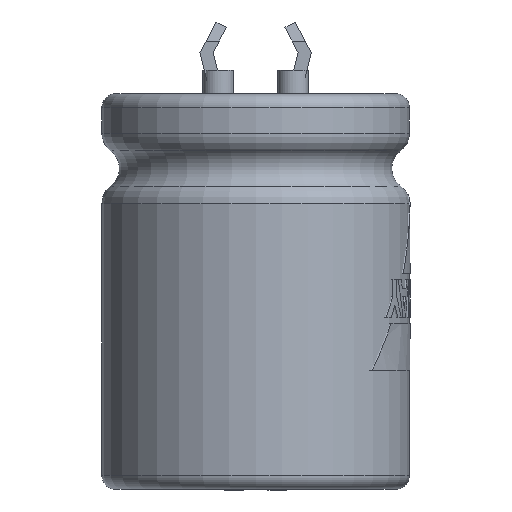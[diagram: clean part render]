
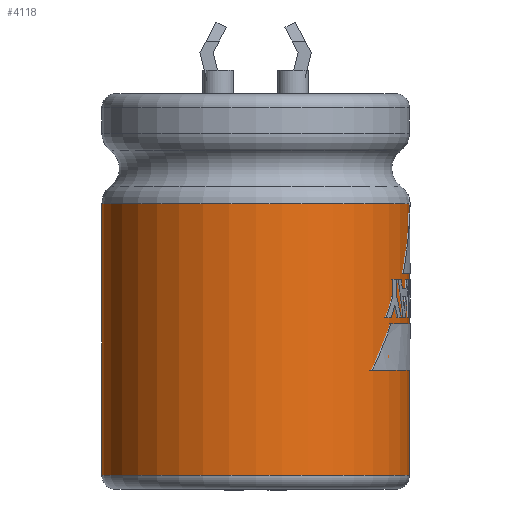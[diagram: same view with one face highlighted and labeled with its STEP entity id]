
A CAD part, left-side view. The second image highlights one B-rep face of the part: STEP entity #4118.
In plain terms, the highlighted cylindrical face has radius 10.5 mm (diameter 21 mm), a full revolution.
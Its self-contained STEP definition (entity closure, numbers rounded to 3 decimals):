
#4050 = TOROIDAL_SURFACE('',#4051,9.,1.5);
#4051 = AXIS2_PLACEMENT_3D('',#4052,#4053,#4054);
#4052 = CARTESIAN_POINT('',(0.,0.,-6.55));
#4053 = DIRECTION('',(0.,0.,1.));
#4054 = DIRECTION('',(1.,0.,0.));
#4066 = EDGE_CURVE('',#4067,#4067,#4069,.T.);
#4067 = VERTEX_POINT('',#4068);
#4068 = CARTESIAN_POINT('',(10.5,0.,
    -6.55));
#4069 = SURFACE_CURVE('',#4070,(#4075,#4082),.PCURVE_S1.);
#4070 = CIRCLE('',#4071,10.5);
#4071 = AXIS2_PLACEMENT_3D('',#4072,#4073,#4074);
#4072 = CARTESIAN_POINT('',(0.,0.,-6.55));
#4073 = DIRECTION('',(0.,0.,1.));
#4074 = DIRECTION('',(1.,0.,0.));
#4075 = PCURVE('',#4050,#4076);
#4076 = DEFINITIONAL_REPRESENTATION('',(#4077),#4081);
#4077 = LINE('',#4078,#4079);
#4078 = CARTESIAN_POINT('',(0.,0.));
#4079 = VECTOR('',#4080,1.);
#4080 = DIRECTION('',(1.,0.));
#4081 = ( GEOMETRIC_REPRESENTATION_CONTEXT(2) 
PARAMETRIC_REPRESENTATION_CONTEXT() REPRESENTATION_CONTEXT('2D SPACE',''
  ) );
#4082 = PCURVE('',#4083,#4088);
#4083 = CYLINDRICAL_SURFACE('',#4084,10.5);
#4084 = AXIS2_PLACEMENT_3D('',#4085,#4086,#4087);
#4085 = CARTESIAN_POINT('',(0.,0.,-25.1));
#4086 = DIRECTION('',(0.,0.,1.));
#4087 = DIRECTION('',(1.,0.,0.));
#4088 = DEFINITIONAL_REPRESENTATION('',(#4089),#4093);
#4089 = LINE('',#4090,#4091);
#4090 = CARTESIAN_POINT('',(0.,18.55));
#4091 = VECTOR('',#4092,1.);
#4092 = DIRECTION('',(1.,0.));
#4093 = ( GEOMETRIC_REPRESENTATION_CONTEXT(2) 
PARAMETRIC_REPRESENTATION_CONTEXT() REPRESENTATION_CONTEXT('2D SPACE',''
  ) );
#4118 = ADVANCED_FACE('',(#4119),#4083,.T.);
#4119 = FACE_BOUND('',#4120,.T.);
#4120 = EDGE_LOOP('',(#4121,#4150,#4171,#4172));
#4121 = ORIENTED_EDGE('',*,*,#4122,.T.);
#4122 = EDGE_CURVE('',#4123,#4123,#4125,.T.);
#4123 = VERTEX_POINT('',#4124);
#4124 = CARTESIAN_POINT('',(10.5,0.,-25.1));
#4125 = SURFACE_CURVE('',#4126,(#4131,#4138),.PCURVE_S1.);
#4126 = CIRCLE('',#4127,10.5);
#4127 = AXIS2_PLACEMENT_3D('',#4128,#4129,#4130);
#4128 = CARTESIAN_POINT('',(0.,0.,-25.1));
#4129 = DIRECTION('',(0.,0.,1.));
#4130 = DIRECTION('',(1.,0.,0.));
#4131 = PCURVE('',#4083,#4132);
#4132 = DEFINITIONAL_REPRESENTATION('',(#4133),#4137);
#4133 = LINE('',#4134,#4135);
#4134 = CARTESIAN_POINT('',(0.,0.));
#4135 = VECTOR('',#4136,1.);
#4136 = DIRECTION('',(1.,0.));
#4137 = ( GEOMETRIC_REPRESENTATION_CONTEXT(2) 
PARAMETRIC_REPRESENTATION_CONTEXT() REPRESENTATION_CONTEXT('2D SPACE',''
  ) );
#4138 = PCURVE('',#4139,#4144);
#4139 = TOROIDAL_SURFACE('',#4140,9.55,0.95);
#4140 = AXIS2_PLACEMENT_3D('',#4141,#4142,#4143);
#4141 = CARTESIAN_POINT('',(0.,0.,-25.1));
#4142 = DIRECTION('',(0.,0.,1.));
#4143 = DIRECTION('',(1.,0.,0.));
#4144 = DEFINITIONAL_REPRESENTATION('',(#4145),#4149);
#4145 = LINE('',#4146,#4147);
#4146 = CARTESIAN_POINT('',(0.,6.283));
#4147 = VECTOR('',#4148,1.);
#4148 = DIRECTION('',(1.,0.));
#4149 = ( GEOMETRIC_REPRESENTATION_CONTEXT(2) 
PARAMETRIC_REPRESENTATION_CONTEXT() REPRESENTATION_CONTEXT('2D SPACE',''
  ) );
#4150 = ORIENTED_EDGE('',*,*,#4151,.T.);
#4151 = EDGE_CURVE('',#4123,#4067,#4152,.T.);
#4152 = SEAM_CURVE('',#4153,(#4157,#4164),.PCURVE_S1.);
#4153 = LINE('',#4154,#4155);
#4154 = CARTESIAN_POINT('',(10.5,0.,-25.1));
#4155 = VECTOR('',#4156,1.);
#4156 = DIRECTION('',(0.,0.,1.));
#4157 = PCURVE('',#4083,#4158);
#4158 = DEFINITIONAL_REPRESENTATION('',(#4159),#4163);
#4159 = LINE('',#4160,#4161);
#4160 = CARTESIAN_POINT('',(0.,0.));
#4161 = VECTOR('',#4162,1.);
#4162 = DIRECTION('',(0.,1.));
#4163 = ( GEOMETRIC_REPRESENTATION_CONTEXT(2) 
PARAMETRIC_REPRESENTATION_CONTEXT() REPRESENTATION_CONTEXT('2D SPACE',''
  ) );
#4164 = PCURVE('',#4083,#4165);
#4165 = DEFINITIONAL_REPRESENTATION('',(#4166),#4170);
#4166 = LINE('',#4167,#4168);
#4167 = CARTESIAN_POINT('',(6.283,0.));
#4168 = VECTOR('',#4169,1.);
#4169 = DIRECTION('',(0.,1.));
#4170 = ( GEOMETRIC_REPRESENTATION_CONTEXT(2) 
PARAMETRIC_REPRESENTATION_CONTEXT() REPRESENTATION_CONTEXT('2D SPACE',''
  ) );
#4171 = ORIENTED_EDGE('',*,*,#4066,.F.);
#4172 = ORIENTED_EDGE('',*,*,#4151,.F.);
